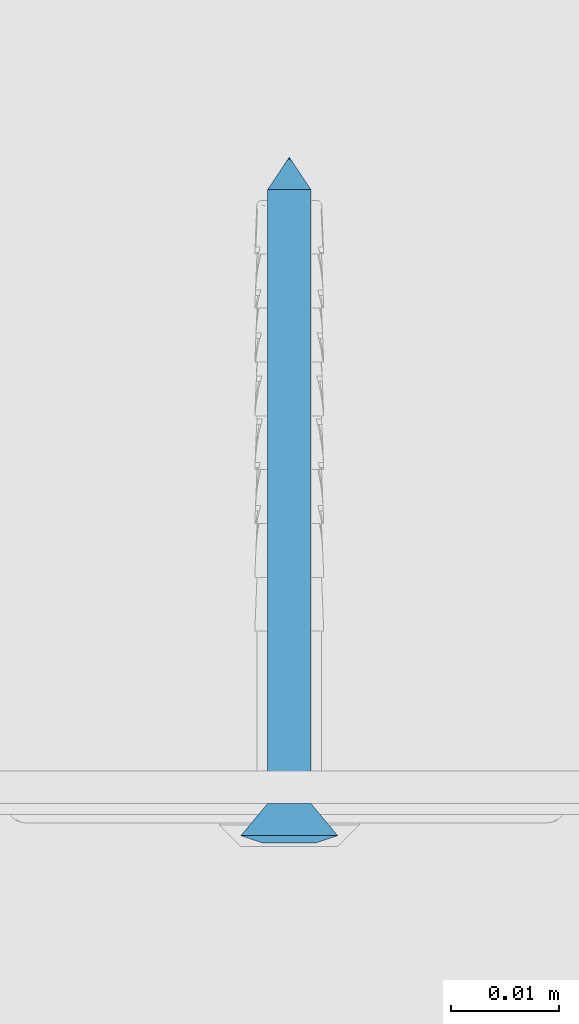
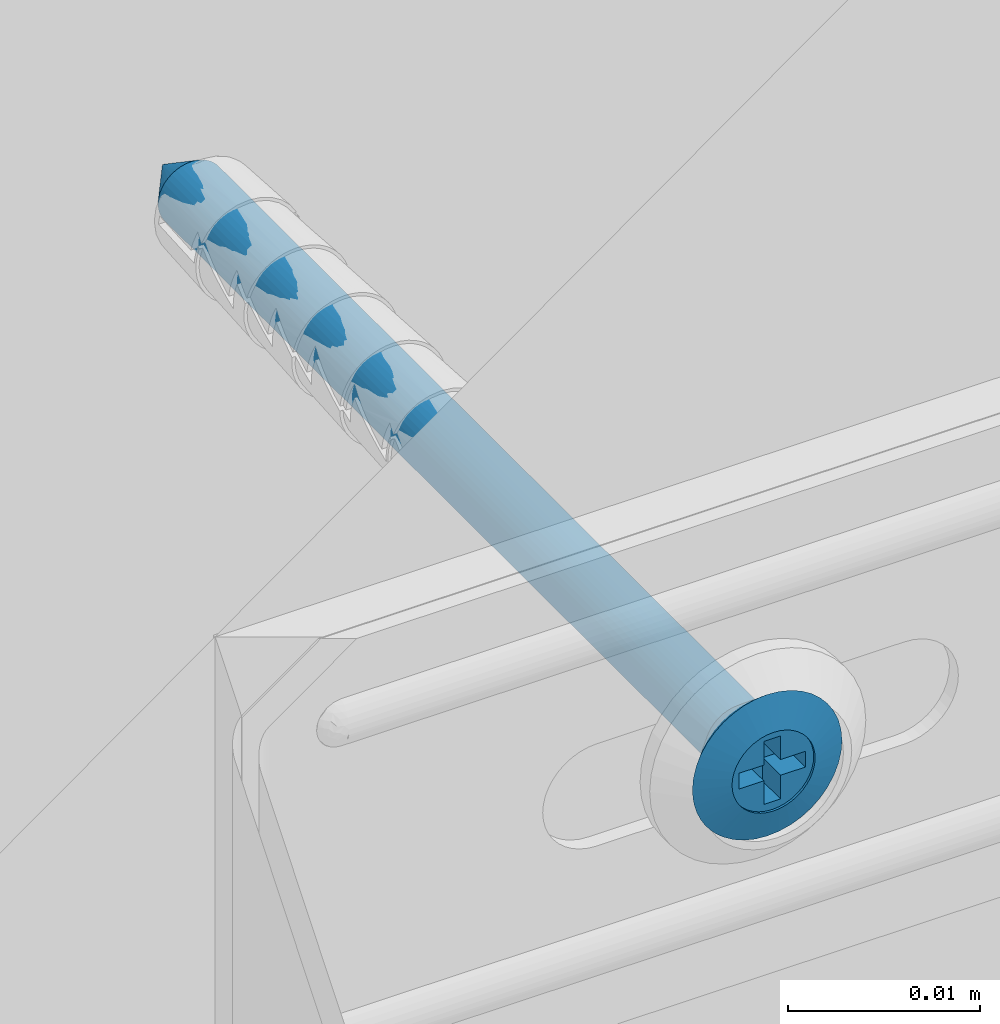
# One storey, part 45 of 47: 1 wall.
"""IFC2X3 building model written with IfcOpenShell, lengths in millimetres."""

from ifc_helpers import new_model, entity, si_unit, converted_unit, direction, frame, origin, origin_with_axes, place, context, project, spatial, faceted_brep, element, save


model = new_model("IFC2X3")

# Units and contexts
model_context = context("Model", 3, precision=1e-05, world=origin(), true_north=direction((0.0, 1.0, 0.0)))
ifc_project = project(units=[si_unit("LENGTHUNIT", "METRE", prefix="MILLI"), si_unit("AREAUNIT", "SQUARE_METRE"), si_unit("VOLUMEUNIT", "CUBIC_METRE"), converted_unit("PLANEANGLEUNIT", "DEGREE", entity("IfcPlaneAngleMeasure", 0.01745), si_unit("PLANEANGLEUNIT", "RADIAN"), dimensions=[0, 0, 0, 0, 0, 0, 0]), si_unit("SOLIDANGLEUNIT", "STERADIAN"), si_unit("MASSUNIT", "GRAM"), si_unit("TIMEUNIT", "SECOND"), si_unit("THERMODYNAMICTEMPERATUREUNIT", "DEGREE_CELSIUS"), si_unit("LUMINOUSINTENSITYUNIT", "LUMEN")], contexts=[model_context])

# Site, building, storey
site_placement = place(None, origin_with_axes())
site = spatial("IfcSite", under=ifc_project, at=site_placement, Name="Default Site", CompositionType="ELEMENT")
building_placement = place(site_placement, origin_with_axes())
building = spatial("IfcBuilding", under=site, at=building_placement, Name="Default Building", CompositionType="ELEMENT")
storey_placement = place(building_placement, origin_with_axes())
storey = spatial("IfcBuildingStorey", under=building, at=storey_placement, Name="Default Building Storey", CompositionType="ELEMENT", Elevation=0.0)

# Wall
wall_placement = place(storey_placement, frame((6941.176283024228, 2016.32861108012, 2539.671890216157), z_axis=(-6.858158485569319e-13, -1.0, 7.642380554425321e-14), x_axis=(-1.647602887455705e-11, 7.642380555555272e-14, 1.0)))
element("IfcWall", 1, at=wall_placement, inside=storey, Name="Kołek rozporowy min. fi 6", context=model_context, shape_type="Brep", body=[
    faceted_brep([(-1438.31414949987, 3453.283223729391, -0.4642567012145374), (-1435.814149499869, 3453.283223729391, -3.464256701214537), (-1435.78952618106, 3452.97035479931, -3.464256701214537), (-1438.258747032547, 3452.57926863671, -0.4642567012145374), (-1435.71626253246, 3452.665189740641, -3.464256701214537), (-1438.093903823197, 3451.892647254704, -0.4642567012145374), (-1435.596162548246, 3452.375242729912, -3.464256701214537), (-1437.823678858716, 3451.240266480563, -0.4642567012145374), (-1435.432183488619, 3452.107653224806, -3.464256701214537), (-1437.454725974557, 3450.638190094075, -0.4642567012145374), (-1435.228363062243, 3451.869010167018, -3.464256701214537), (-1436.996130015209, 3450.101243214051, -0.4642567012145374), (-1434.989720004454, 3451.665189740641, -3.464256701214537), (-1436.459183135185, 3449.642647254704, -0.4642567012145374), (-1434.722130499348, 3451.501210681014, -3.464256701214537), (-1435.857106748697, 3449.273694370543, -0.4642567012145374), (-1434.432183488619, 3451.381110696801, -3.464256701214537), (-1435.204725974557, 3449.003469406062, -0.4642567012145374), (-1434.12701842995, 3451.307847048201, -3.464256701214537), (-1434.51810459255, 3448.838626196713, -0.4642567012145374), (-1433.814149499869, 3451.283223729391, -3.464256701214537), (-1433.814149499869, 3448.783223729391, -0.4642567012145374), (-1433.501280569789, 3451.307847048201, -3.464256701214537), (-1433.110194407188, 3448.838626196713, -0.4642567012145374), (-1433.19611551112, 3451.381110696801, -3.464256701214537), (-1432.423573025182, 3449.003469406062, -0.4642567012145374), (-1432.906168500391, 3451.501210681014, -3.464256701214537), (-1431.771192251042, 3449.273694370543, -0.4642567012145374), (-1432.638578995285, 3451.665189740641, -3.464256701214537), (-1431.169115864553, 3449.642647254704, -0.4642567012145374), (-1432.399935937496, 3451.869010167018, -3.464256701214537), (-1430.63216898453, 3450.101243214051, -0.4642567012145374), (-1432.196115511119, 3452.107653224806, -3.464256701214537), (-1430.173573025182, 3450.638190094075, -0.4642567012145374), (-1432.032136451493, 3452.375242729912, -3.464256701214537), (-1429.804620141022, 3451.240266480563, -0.4642567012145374), (-1431.912036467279, 3452.665189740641, -3.464256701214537), (-1429.534395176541, 3451.892647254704, -0.4642567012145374), (-1431.838772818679, 3453.596092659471, -3.464256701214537), (-1429.369551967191, 3453.987178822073, -0.4642567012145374), (-1429.314149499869, 3453.283223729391, -0.4642567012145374), (-1431.81414949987, 3453.283223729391, -3.464256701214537), (-1429.369551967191, 3452.57926863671, -0.4642567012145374), (-1431.838772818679, 3452.97035479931, -3.464256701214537), (-1431.912036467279, 3453.901257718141, -3.464256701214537), (-1429.534395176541, 3454.673800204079, -0.4642567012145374), (-1432.032136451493, 3454.19120472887, -3.464256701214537), (-1429.804620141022, 3455.326180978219, -0.4642567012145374), (-1432.196115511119, 3454.458794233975, -3.464256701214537), (-1430.173573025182, 3455.928257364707, -0.4642567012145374), (-1432.399935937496, 3454.697437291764, -3.464256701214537), (-1430.63216898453, 3456.465204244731, -0.4642567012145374), (-1432.638578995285, 3454.901257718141, -3.464256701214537), (-1431.169115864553, 3456.923800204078, -0.4642567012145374), (-1432.906168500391, 3455.065236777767, -3.464256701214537), (-1431.771192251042, 3457.292753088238, -0.4642567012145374), (-1433.19611551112, 3455.185336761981, -3.464256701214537), (-1432.423573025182, 3457.562978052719, -0.4642567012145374), (-1433.501280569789, 3455.258600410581, -3.464256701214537), (-1433.110194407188, 3457.727821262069, -0.4642567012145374), (-1433.814149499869, 3455.283223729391, -3.464256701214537), (-1433.814149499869, 3457.783223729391, -0.4642567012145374), (-1434.34306778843, 3457.752031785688, -0.4642567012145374), (-1434.12701842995, 3455.258600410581, -3.464256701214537), (-1434.432183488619, 3455.185336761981, -3.464256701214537), (-1434.864653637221, 3457.658888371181, -0.4642567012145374), (-1435.371676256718, 3457.505084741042, -0.4642567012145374), (-1434.722130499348, 3455.065236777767, -3.464256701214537), (-1435.857106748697, 3457.292753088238, -0.4642567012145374), (-1434.989720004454, 3454.901257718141, -3.464256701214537), (-1435.228363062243, 3454.697437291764, -3.464256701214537), (-1436.314215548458, 3457.024836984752, -0.4642567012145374), (-1436.736665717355, 3456.705050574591, -0.4642567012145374), (-1437.11860079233, 3456.337827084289, -0.4642567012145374), (-1437.454725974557, 3455.928257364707, -0.4642567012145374), (-1435.432183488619, 3454.458794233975, -3.464256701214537), (-1435.596162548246, 3454.19120472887, -3.464256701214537), (-1437.823678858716, 3455.326180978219, -0.4642567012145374), (-1435.71626253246, 3453.901257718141, -3.464256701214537), (-1438.093903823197, 3454.673800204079, -0.4642567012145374), (-1435.78952618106, 3453.596092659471, -3.464256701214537), (-1438.258747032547, 3453.987178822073, -0.4642567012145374), (-1434.205235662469, 3455.752444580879, 0.2007375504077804), (-1433.814149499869, 3455.78322372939, 0.2007375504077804), (-1434.586691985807, 3455.660865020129, 0.2007375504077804), (-1434.949125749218, 3455.510740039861, 0.2007375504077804), (-1435.283612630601, 3455.305766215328, 0.2007375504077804), (-1435.581916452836, 3455.050990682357, 0.2007375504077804), (-1435.836691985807, 3454.752686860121, 0.2007375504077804), (-1436.04166581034, 3454.41819997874, 0.2007375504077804), (-1436.191790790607, 3454.055766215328, 0.2007375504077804), (-1436.283370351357, 3453.674309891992, 0.2007375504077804), (-1436.314149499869, 3453.283223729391, 0.2007375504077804), (-1436.283370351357, 3452.892137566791, 0.2007375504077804), (-1436.191790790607, 3452.510681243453, 0.2007375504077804), (-1436.04166581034, 3452.148247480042, 0.2007375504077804), (-1435.836691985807, 3451.81376059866, 0.200737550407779), (-1435.581916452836, 3451.515456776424, 0.2007375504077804), (-1435.283612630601, 3451.260681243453, 0.2007375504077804), (-1434.949125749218, 3451.05570741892, 0.2007375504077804), (-1434.586691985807, 3450.905582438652, 0.2007375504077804), (-1433.423063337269, 3450.814002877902, 0.2007375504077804), (-1433.814149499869, 3450.783223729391, 0.2007375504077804), (-1434.205235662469, 3450.814002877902, 0.2007375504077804), (-1433.041607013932, 3450.905582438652, 0.2007375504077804), (-1432.67917325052, 3451.05570741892, 0.2007375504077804), (-1432.344686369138, 3451.260681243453, 0.2007375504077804), (-1432.046382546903, 3451.515456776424, 0.2007375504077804), (-1431.791607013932, 3451.81376059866, 0.2007375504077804), (-1431.586633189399, 3452.148247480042, 0.2007375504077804), (-1431.436508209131, 3452.510681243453, 0.2007375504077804), (-1431.344928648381, 3452.892137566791, 0.2007375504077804), (-1431.314149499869, 3453.283223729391, 0.2007375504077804), (-1431.344928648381, 3453.674309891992, 0.2007375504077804), (-1431.436508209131, 3454.055766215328, 0.2007375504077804), (-1431.586633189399, 3454.41819997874, 0.2007375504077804), (-1431.791607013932, 3454.752686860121, 0.2007375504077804), (-1432.046382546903, 3455.050990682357, 0.2007375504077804), (-1432.344686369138, 3455.305766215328, 0.2007375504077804), (-1432.67917325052, 3455.510740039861, 0.2007375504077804), (-1433.041607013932, 3455.660865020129, 0.2007375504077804), (-1433.423063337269, 3455.752444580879, 0.2007375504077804), (-1433.814149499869, 3453.283223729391, -63.46425670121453), (-1435.789526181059, 3452.97035479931, -60.46425670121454), (-1435.814149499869, 3453.283223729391, -60.46425670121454), (-1435.716262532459, 3452.665189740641, -60.46425670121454), (-1435.596162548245, 3452.375242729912, -60.46425670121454), (-1435.432183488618, 3452.107653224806, -60.46425670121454), (-1435.228363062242, 3451.869010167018, -60.46425670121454), (-1434.989720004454, 3451.665189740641, -60.46425670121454), (-1434.722130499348, 3451.501210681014, -60.46425670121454), (-1434.432183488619, 3451.381110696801, -60.46425670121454), (-1434.127018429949, 3451.307847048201, -60.46425670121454), (-1433.814149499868, 3451.283223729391, -60.46425670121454), (-1433.501280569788, 3451.307847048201, -60.46425670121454), (-1433.196115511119, 3451.381110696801, -60.46425670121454), (-1432.90616850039, 3451.501210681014, -60.46425670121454), (-1432.638578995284, 3451.665189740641, -60.46425670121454), (-1432.399935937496, 3451.869010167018, -60.46425670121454), (-1432.196115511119, 3452.107653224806, -60.46425670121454), (-1432.032136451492, 3452.375242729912, -60.46425670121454), (-1431.912036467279, 3452.665189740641, -60.46425670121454), (-1431.838772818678, 3452.97035479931, -60.46425670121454), (-1431.814149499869, 3453.283223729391, -60.46425670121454), (-1431.838772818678, 3453.596092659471, -60.46425670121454), (-1431.912036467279, 3453.901257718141, -60.46425670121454), (-1432.032136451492, 3454.19120472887, -60.46425670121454), (-1432.196115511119, 3454.458794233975, -60.46425670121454), (-1432.399935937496, 3454.697437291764, -60.46425670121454), (-1432.638578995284, 3454.901257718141, -60.46425670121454), (-1432.90616850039, 3455.065236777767, -60.46425670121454), (-1433.196115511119, 3455.185336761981, -60.46425670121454), (-1433.501280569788, 3455.258600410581, -60.46425670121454), (-1433.814149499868, 3455.283223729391, -60.46425670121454), (-1434.127018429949, 3455.258600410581, -60.46425670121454), (-1434.432183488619, 3455.185336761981, -60.46425670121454), (-1434.722130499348, 3455.065236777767, -60.46425670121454), (-1434.989720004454, 3454.901257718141, -60.46425670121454), (-1435.228363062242, 3454.697437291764, -60.46425670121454), (-1435.432183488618, 3454.458794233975, -60.46425670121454), (-1435.596162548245, 3454.19120472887, -60.46425670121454), (-1435.716262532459, 3453.901257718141, -60.46425670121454), (-1435.789526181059, 3453.596092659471, -60.46425670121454), (-1435.814149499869, 3453.783223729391, 0.04999999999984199), (-1436.04166581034, 3454.41819997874, 0.04999999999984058), (-1436.191790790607, 3454.055766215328, 0.04999999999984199), (-1435.814149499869, 3452.783223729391, 0.04999999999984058), (-1434.314149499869, 3453.783223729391, 0.04999999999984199), (-1434.314149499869, 3455.28322372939, 0.04999999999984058), (-1433.314149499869, 3455.28322372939, 0.04999999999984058), (-1433.314149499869, 3453.783223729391, 0.04999999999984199), (-1431.814149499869, 3453.783223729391, 0.04999999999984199), (-1431.814149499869, 3452.783223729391, 0.04999999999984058), (-1433.314149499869, 3452.783223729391, 0.04999999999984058), (-1433.314149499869, 3451.283223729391, 0.04999999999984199), (-1434.314149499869, 3451.283223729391, 0.04999999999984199), (-1434.314149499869, 3452.783223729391, 0.04999999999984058), (-1436.283370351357, 3453.674309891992, 0.04999999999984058), (-1436.314149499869, 3453.283223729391, 0.04999999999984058), (-1436.283370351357, 3452.892137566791, 0.04999999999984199), (-1436.191790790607, 3452.510681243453, 0.04999999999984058), (-1436.04166581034, 3452.148247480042, 0.04999999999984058), (-1435.836691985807, 3451.81376059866, 0.04999999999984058), (-1435.581916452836, 3451.515456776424, 0.04999999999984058), (-1435.283612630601, 3451.260681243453, 0.04999999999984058), (-1434.949125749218, 3451.05570741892, 0.04999999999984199), (-1434.586691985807, 3450.905582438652, 0.04999999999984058), (-1434.205235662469, 3450.814002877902, 0.04999999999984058), (-1433.814149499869, 3450.783223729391, 0.04999999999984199), (-1433.423063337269, 3450.814002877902, 0.04999999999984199), (-1433.041607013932, 3450.905582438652, 0.04999999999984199), (-1432.67917325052, 3451.05570741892, 0.04999999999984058), (-1432.344686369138, 3451.260681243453, 0.04999999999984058), (-1432.046382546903, 3451.515456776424, 0.04999999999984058), (-1431.791607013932, 3451.81376059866, 0.04999999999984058), (-1431.586633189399, 3452.148247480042, 0.04999999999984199), (-1431.436508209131, 3452.510681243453, 0.04999999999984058), (-1431.344928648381, 3452.892137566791, 0.04999999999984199), (-1431.314149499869, 3453.283223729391, 0.04999999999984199), (-1431.344928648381, 3453.674309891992, 0.04999999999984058), (-1431.436508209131, 3454.055766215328, 0.04999999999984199), (-1431.586633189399, 3454.41819997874, 0.04999999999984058), (-1431.791607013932, 3454.752686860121, 0.04999999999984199), (-1432.046382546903, 3455.050990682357, 0.04999999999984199), (-1432.344686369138, 3455.305766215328, 0.04999999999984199), (-1432.67917325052, 3455.510740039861, 0.04999999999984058), (-1433.041607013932, 3455.660865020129, 0.04999999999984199), (-1433.423063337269, 3455.752444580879, 0.04999999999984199), (-1433.814149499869, 3455.78322372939, 0.04999999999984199), (-1434.205235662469, 3455.752444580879, 0.04999999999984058), (-1434.586691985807, 3455.660865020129, 0.04999999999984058), (-1434.949125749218, 3455.510740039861, 0.04999999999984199), (-1435.283612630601, 3455.305766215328, 0.04999999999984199), (-1435.581916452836, 3455.050990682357, 0.04999999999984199), (-1435.836691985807, 3454.752686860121, 0.04999999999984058), (-1434.314149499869, 3452.783223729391, -1.79926244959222), (-1434.314149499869, 3451.283223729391, -1.799262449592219), (-1433.314149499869, 3451.283223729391, -1.799262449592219), (-1433.314149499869, 3452.783223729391, -1.79926244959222), (-1431.81414949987, 3452.783223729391, -1.79926244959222), (-1431.81414949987, 3453.783223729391, -1.799262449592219), (-1433.314149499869, 3453.783223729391, -1.799262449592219), (-1433.314149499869, 3455.28322372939, -1.79926244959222), (-1434.314149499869, 3455.28322372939, -1.79926244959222), (-1434.314149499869, 3453.783223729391, -1.799262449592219), (-1435.814149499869, 3453.783223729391, -1.799262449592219), (-1435.814149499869, 3452.783223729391, -1.79926244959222)], [[[0, 1, 2, 3]], [[4, 5, 3, 2]], [[6, 7, 5, 4]], [[7, 6, 8, 9]], [[10, 11, 9, 8]], [[11, 10, 12, 13]], [[14, 15, 13, 12]], [[16, 17, 15, 14]], [[17, 16, 18, 19]], [[20, 21, 19, 18]], [[21, 20, 22, 23]], [[24, 25, 23, 22]], [[26, 27, 25, 24]], [[27, 26, 28, 29]], [[30, 31, 29, 28]], [[31, 30, 32, 33]], [[34, 35, 33, 32]], [[36, 37, 35, 34]], [[38, 39, 40, 41]], [[41, 40, 42, 43]], [[37, 36, 43, 42]], [[44, 45, 39, 38]], [[46, 47, 45, 44]], [[47, 46, 48, 49]], [[50, 51, 49, 48]], [[51, 50, 52, 53]], [[54, 55, 53, 52]], [[56, 57, 55, 54]], [[57, 56, 58, 59]], [[60, 61, 59, 58]], [[62, 61, 63]], [[61, 60, 63]], [[63, 64, 62]], [[64, 65, 62]], [[66, 65, 64]], [[64, 67, 66]], [[67, 68, 66]], [[69, 70, 71]], [[70, 72, 71]], [[71, 68, 69]], [[68, 67, 69]], [[70, 73, 72]], [[74, 73, 75]], [[73, 70, 75]], [[76, 77, 74, 75]], [[78, 79, 77, 76]], [[79, 78, 80, 81]], [[1, 0, 81, 80]], [[82, 83, 62]], [[83, 61, 62]], [[62, 65, 82]], [[65, 84, 82]], [[66, 68, 84]], [[68, 85, 84]], [[84, 65, 66]], [[86, 85, 71]], [[85, 68, 71]], [[72, 73, 87]], [[87, 86, 72]], [[86, 71, 72]], [[88, 87, 74]], [[87, 73, 74]], [[77, 89, 88, 74]], [[79, 90, 89, 77]], [[90, 79, 81, 91]], [[0, 92, 91, 81]], [[92, 0, 3, 93]], [[5, 94, 93, 3]], [[7, 95, 94, 5]], [[95, 7, 9, 96]], [[11, 97, 96, 9]], [[97, 11, 13, 98]], [[15, 99, 98, 13]], [[17, 100, 99, 15]], [[23, 101, 102, 21]], [[21, 102, 103, 19]], [[100, 17, 19, 103]], [[25, 104, 101, 23]], [[27, 105, 104, 25]], [[105, 27, 29, 106]], [[31, 107, 106, 29]], [[107, 31, 33, 108]], [[35, 109, 108, 33]], [[37, 110, 109, 35]], [[110, 37, 42, 111]], [[40, 112, 111, 42]], [[112, 40, 39, 113]], [[45, 114, 113, 39]], [[47, 115, 114, 45]], [[115, 47, 49, 116]], [[51, 117, 116, 49]], [[117, 51, 53, 118]], [[55, 119, 118, 53]], [[57, 120, 119, 55]], [[120, 57, 59, 121]], [[61, 83, 121, 59]], [[122, 123, 124]], [[122, 125, 123]], [[122, 126, 125]], [[127, 126, 122]], [[122, 128, 127]], [[129, 128, 122]], [[122, 130, 129]], [[122, 131, 130]], [[132, 131, 122]], [[122, 133, 132]], [[134, 133, 122]], [[122, 135, 134]], [[122, 136, 135]], [[137, 136, 122]], [[122, 138, 137]], [[139, 138, 122]], [[122, 140, 139]], [[122, 141, 140]], [[142, 141, 122]], [[122, 143, 142]], [[144, 143, 122]], [[122, 145, 144]], [[122, 146, 145]], [[147, 146, 122]], [[122, 148, 147]], [[149, 148, 122]], [[122, 150, 149]], [[122, 151, 150]], [[152, 151, 122]], [[122, 153, 152]], [[154, 153, 122]], [[122, 155, 154]], [[122, 156, 155]], [[157, 156, 122]], [[122, 158, 157]], [[159, 158, 122]], [[122, 160, 159]], [[122, 161, 160]], [[162, 161, 122]], [[124, 162, 122]], [[1, 124, 123, 2]], [[125, 4, 2, 123]], [[126, 6, 4, 125]], [[6, 126, 127, 8]], [[128, 10, 8, 127]], [[10, 128, 129, 12]], [[130, 14, 12, 129]], [[131, 16, 14, 130]], [[16, 131, 132, 18]], [[133, 20, 18, 132]], [[20, 133, 134, 22]], [[135, 24, 22, 134]], [[136, 26, 24, 135]], [[26, 136, 137, 28]], [[138, 30, 28, 137]], [[30, 138, 139, 32]], [[140, 34, 32, 139]], [[141, 36, 34, 140]], [[144, 38, 41, 143]], [[143, 41, 43, 142]], [[36, 141, 142, 43]], [[145, 44, 38, 144]], [[146, 46, 44, 145]], [[46, 146, 147, 48]], [[148, 50, 48, 147]], [[50, 148, 149, 52]], [[150, 54, 52, 149]], [[151, 56, 54, 150]], [[56, 151, 152, 58]], [[153, 60, 58, 152]], [[60, 153, 154, 63]], [[155, 64, 63, 154]], [[156, 67, 64, 155]], [[67, 156, 157, 69]], [[158, 70, 69, 157]], [[70, 158, 159, 75]], [[160, 76, 75, 159]], [[161, 78, 76, 160]], [[78, 161, 162, 80]], [[124, 1, 80, 162]], [[163, 164, 165, 166]], [[163, 167, 168, 169, 170, 171, 172, 173, 174, 175, 176, 166, 165, 177, 178, 179, 180, 181, 182, 183, 184, 185, 186, 187, 188, 189, 190, 191, 192, 193, 194, 195, 196, 197, 198, 199, 200, 201, 202, 203, 204, 205, 206, 207, 208, 209, 210, 211, 212, 213, 214, 164]], [[199, 198, 112, 113]], [[113, 114, 200, 199]], [[114, 115, 201, 200]], [[202, 201, 115, 116]], [[116, 117, 203, 202]], [[204, 203, 117, 118]], [[118, 119, 205, 204]], [[119, 120, 206, 205]], [[207, 206, 120, 121]], [[121, 83, 208, 207]], [[209, 208, 83, 82]], [[82, 84, 210, 209]], [[84, 85, 211, 210]], [[212, 211, 85, 86]], [[86, 87, 213, 212]], [[214, 213, 87, 88]], [[88, 89, 164, 214]], [[89, 90, 165, 164]], [[92, 93, 179, 178]], [[91, 92, 178, 177]], [[177, 165, 90, 91]], [[93, 94, 180, 179]], [[94, 95, 181, 180]], [[182, 181, 95, 96]], [[96, 97, 183, 182]], [[184, 183, 97, 98]], [[98, 99, 185, 184]], [[99, 100, 186, 185]], [[187, 186, 100, 103]], [[103, 102, 188, 187]], [[189, 188, 102, 101]], [[101, 104, 190, 189]], [[104, 105, 191, 190]], [[192, 191, 105, 106]], [[106, 107, 193, 192]], [[194, 193, 107, 108]], [[108, 109, 195, 194]], [[109, 110, 196, 195]], [[197, 196, 110, 111]], [[111, 112, 198, 197]], [[215, 216, 217, 218, 219, 220, 221, 222, 223, 224, 225, 226]], [[216, 175, 174, 217]], [[215, 176, 175, 216]], [[226, 166, 176, 215]], [[225, 163, 166, 226]], [[224, 167, 163, 225]], [[223, 168, 167, 224]], [[222, 169, 168, 223]], [[221, 170, 169, 222]], [[220, 171, 170, 221]], [[219, 172, 171, 220]], [[218, 173, 172, 219]], [[217, 174, 173, 218]]]),
])

save(model, "model.ifc")
